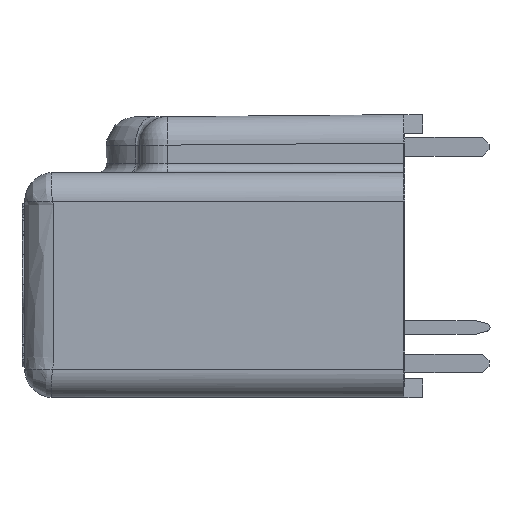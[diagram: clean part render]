
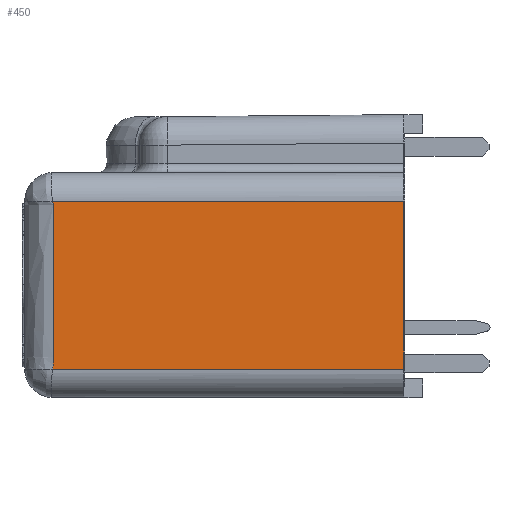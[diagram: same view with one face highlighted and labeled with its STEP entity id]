
A CAD part, left-side view. The second image highlights one B-rep face of the part: STEP entity #450.
In plain terms, the highlighted planar face has unit normal (-1, 0, 0).
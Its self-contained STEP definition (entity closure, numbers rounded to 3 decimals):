
#10=CARTESIAN_POINT('',(44.101,-5.253,
4.389));
#20=DIRECTION('',(-1.,0.,0.));
#30=DIRECTION('',(0.,1.,0.));
#40=AXIS2_PLACEMENT_3D('',#10,#20,#30);
#50=PLANE('',#40);
#60=CARTESIAN_POINT('',(44.101,14.303,
4.16));
#70=DIRECTION('',(0.,-1.,0.));
#80=VECTOR('',#70,1.);
#90=LINE('',#60,#80);
#100=CARTESIAN_POINT('',(44.101,13.768,
4.16));
#110=VERTEX_POINT('',#100);
#120=CARTESIAN_POINT('',(44.101,-4.782,
4.16));
#130=VERTEX_POINT('',#120);
#140=EDGE_CURVE('',#110,#130,#90,.T.);
#150=ORIENTED_EDGE('',*,*,#140,.F.);
#160=CARTESIAN_POINT('',(44.101,-4.782,0.));
#170=DIRECTION('',(0.,0.,1.));
#180=VECTOR('',#170,1.);
#190=LINE('',#160,#180);
#200=CARTESIAN_POINT('',(44.101,-4.782,
-4.705));
#210=VERTEX_POINT('',#200);
#220=EDGE_CURVE('',#210,#130,#190,.T.);
#230=ORIENTED_EDGE('',*,*,#220,.T.);
#240=CARTESIAN_POINT('',(44.101,14.303,
-4.705));
#250=DIRECTION('',(0.,-1.,0.));
#260=VECTOR('',#250,1.);
#270=LINE('',#240,#260);
#280=CARTESIAN_POINT('',(44.101,13.768,
-4.705));
#290=VERTEX_POINT('',#280);
#300=EDGE_CURVE('',#290,#210,#270,.T.);
#310=ORIENTED_EDGE('',*,*,#300,.T.);
#320=CARTESIAN_POINT('',(44.101,13.768,
4.16));
#330=CARTESIAN_POINT('',(44.101,13.751,
4.091));
#340=CARTESIAN_POINT('',(44.101,13.718,
4.026));
#350=CARTESIAN_POINT('',(44.101,13.718,
1.137));
#360=CARTESIAN_POINT('',(44.101,13.718,
-1.682));
#370=CARTESIAN_POINT('',(44.101,13.718,
-4.571));
#380=CARTESIAN_POINT('',(44.101,13.751,
-4.636));
#390=CARTESIAN_POINT('',(44.101,13.768,
-4.705));
#400=B_SPLINE_CURVE_WITH_KNOTS('',3,(#320,#330,#340,#350,#360,#370,#380,
#390),.UNSPECIFIED.,.F.,.F.,(4,2,2,4),(0.,0.024,
0.976,1.),.UNSPECIFIED.);
#410=EDGE_CURVE('',#110,#290,#400,.T.);
#420=ORIENTED_EDGE('',*,*,#410,.T.);
#430=EDGE_LOOP('',(#420,#310,#230,#150));
#440=FACE_OUTER_BOUND('',#430,.T.);
#450=ADVANCED_FACE('',(#440),#50,.T.);
